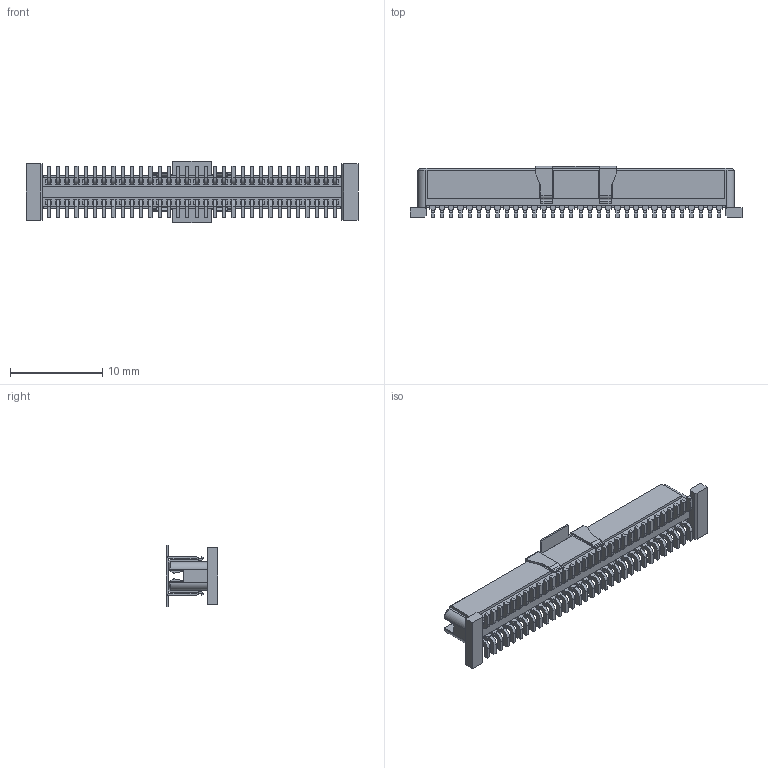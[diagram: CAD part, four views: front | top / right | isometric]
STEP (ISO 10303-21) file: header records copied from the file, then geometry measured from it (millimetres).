
FILE_DESCRIPTION((''),'2;1');
FILE_NAME('714390764','2015-11-26T',('gsharma'),(''),'PRO/ENGINEER BY PARAMETRIC TECHNOLOGY CORPORATION, 2012310','PRO/ENGINEER BY PARAMETRIC TECHNOLOGY CORPORATION, 2012310','');
FILE_SCHEMA(('CONFIG_CONTROL_DESIGN'));
Length unit declared in the file: millimetre
Products named in the file (1): 714390764
Bounding box: 35.9 x 5.52 x 6.6 mm (x, y, z)
Volume: 460.9 mm3; surface area: 1459.5 mm2
Topology: 2 solids, 2 shells, 1814 faces, 5346 edges, 3600 vertices
Faces by surface type: plane 1590, cylinder 220, cone 4
Entity records: 59085 total; most frequent: CARTESIAN_POINT 10559, ORIENTED_EDGE 10180, DIRECTION 9404, EDGE_CURVE 5090, VECTOR 4894, LINE 4894, VERTEX_POINT 3344, AXIS2_PLACEMENT_3D 2255
